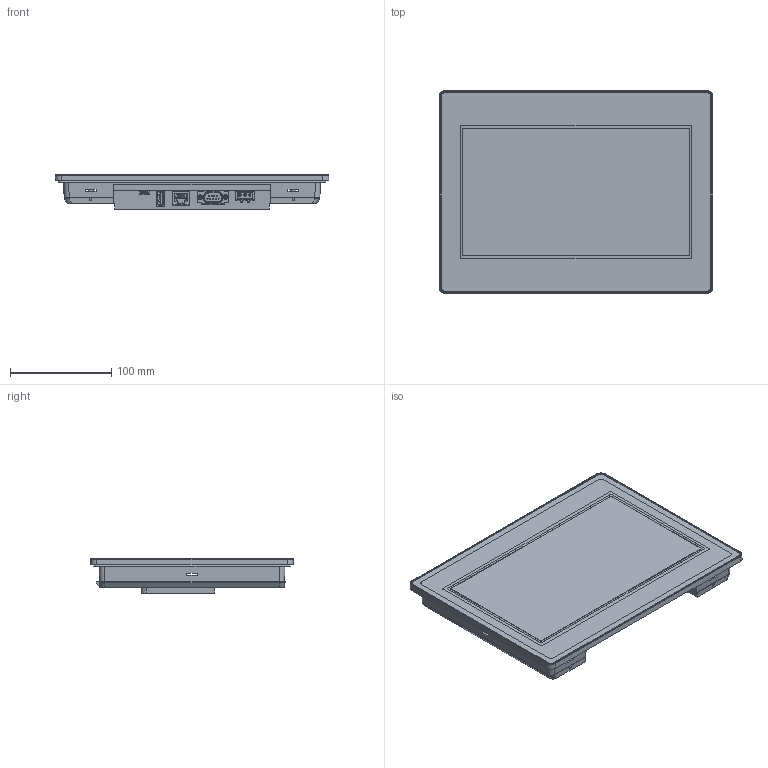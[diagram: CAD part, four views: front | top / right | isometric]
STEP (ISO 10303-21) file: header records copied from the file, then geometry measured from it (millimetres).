
FILE_DESCRIPTION((''),'2;1');
FILE_NAME('PFXET5500-3D_ASM','2025-08-25T15:40:02',('SESA523511'),('Schneider-Electric'),'CREO PARAMETRIC BY PTC INC, 2022484','CREO PARAMETRIC BY PTC INC, 2022484','');
FILE_SCHEMA(('AP242_MANAGED_MODEL_BASED_3D_ENGINEERING_MIM_LF { 1 0 10303 442 1 1 4 }'));
Products named in the file (13): TME5164501; TME5164601; HUA2291101_1; NNZ4594901_1; HUA20681_COPY; D09P33E6RV09LFC_COPY_1; 1CNR005385_MIG17_1; HUA17606_MIG17_1; 10118194-0001LF_MICROB_1; GDE2201201_AF19_1; TME8466101_1; PFXET5500_ASM; PFXET5500-3D_ASM
Assembly tree (15 placements, depth 3):
  PFXET5500-3D_ASM
    PFXET5500_ASM
      TME5164501
      TME5164601
      HUA2291101_1  x4
      NNZ4594901_1
      HUA20681_COPY
      D09P33E6RV09LFC_COPY_1
      1CNR005385_MIG17_1
      HUA17606_MIG17_1
      10118194-0001LF_MICROB_1
      GDE2201201_AF19_1
      TME8466101_1
Bounding box: 270.5 x 200.5 x 34 mm (x, y, z)
Volume: 543170.3 mm3; surface area: 379583.1 mm2
Topology: 14 solids, 14 shells, 2839 faces, 7903 edges, 5105 vertices
Faces by surface type: plane 1792, cylinder 766, cone 125, torus 60, bspline 53, extrusion 28, sphere 15
Entity records: 120177 total; most frequent: CARTESIAN_POINT 20143, ORIENTED_EDGE 15280, DIRECTION 14222, PRESENTATION_STYLE_ASSIGNMENT 8083, STYLED_ITEM 7664, CURVE_STYLE 7652, EDGE_CURVE 7640, VECTOR 5696
